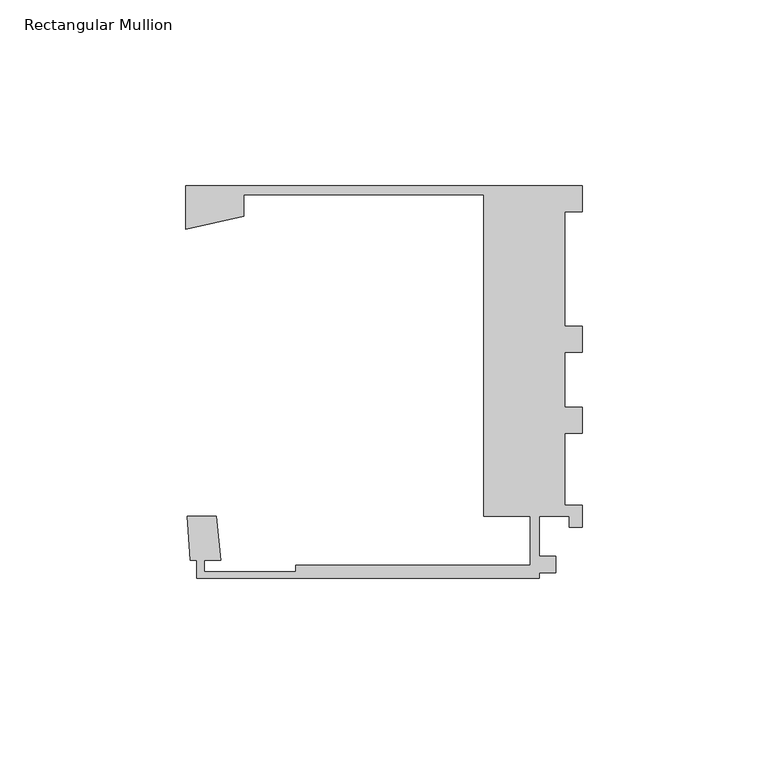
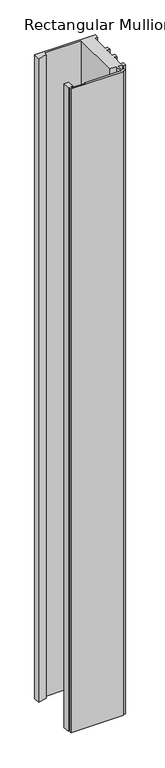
"""IFC4 building model written with IfcOpenShell, lengths in millimetres: member geometry, Rectangular Mullion : Danpal_Airpt_End-Mullion_B1."""

from ifc_helpers import new_model, si_unit, frame, origin, place, context, project, spatial, polyline, outline, extrude, source, transform, mapped, element, save


def rectangular_mullion_8438cd58(model_context):
    return source(origin(), model_context, "Body", "SweptSolid", [
        extrude(outline(polyline([(-11.6055875, -92.6094337), (-103.8999976, -92.6094337), (-103.8999976, -87.7698451), (-105.6776694, -87.7698451), (-106.4274982, -75.8596534), (-98.5693208, -75.8596534), (-97.4384397, -87.7698451), (-101.8999976, -87.7698451), (-101.8999976, -90.8094336), (-77.1531178, -90.8094336), (-77.1531178, -89.1094336), (-14.1055875, -89.1094336), (-14.1055875, -75.8596534), (-26.6209612, -75.8596534), (-26.6209612, 10.6837558), (-91.2900275, 10.6837558), (-91.2900275, 4.9090081), (-106.8892292, 1.4378016), (-106.8892292, 13.1837558), (0.0, 13.1837558), (0.0, 6.1837558), (-4.8, 6.1837558), (-4.8, -24.6595054), (0.0, -24.6595054), (0.0, -31.6595227), (-4.8, -31.6595227), (-4.8, -46.4688518), (0.0, -46.4688518), (0.0, -53.4688518), (-4.8, -53.4688518), (-4.8, -72.9077707), (0.0, -72.9077707), (0.0, -78.8594337), (-3.5072447, -78.8594337), (-3.5072447, -75.8594337), (-11.6055875, -75.8594337), (-11.6055875, -86.6049249), (-7.1518595, -86.6049249), (-7.1518595, -91.1094337), (-11.6055875, -91.1094337), (-11.6055875, -92.6094337)])), frame((0.0, 0.0, -1200.0), z_axis=(0.0, 0.0, 1.0), x_axis=(1.0, 0.0, 0.0)), (0.0, 0.0, 1.0), 1200.0),
    ])


if __name__ == "__main__":
    model = new_model("IFC4")
    model_context = context("Model", 3, world=origin())
    ifc_project = project(units=[si_unit("LENGTHUNIT", "METRE", prefix="MILLI")], contexts=[model_context])
    site = spatial("IfcSite", under=ifc_project)
    building = spatial("IfcBuilding", under=site)
    placement = place(None, origin())
    rectangular_mullion_shape = rectangular_mullion_8438cd58(model_context)
    element("IfcMember", 1, ObjectType="Rectangular Mullion : Danpal_Airpt_End-Mullion_B1", at=placement, inside=building, context=model_context, shape_type="MappedRepresentation", body=[
        mapped(rectangular_mullion_shape, transform((0.0, 0.0, 0.0), x_axis=(1.0, 0.0, 0.0), y_axis=(0.0, 1.0, 0.0), z_axis=(0.0, 0.0, 1.0))),
    ])
    save(model, "model.ifc")
